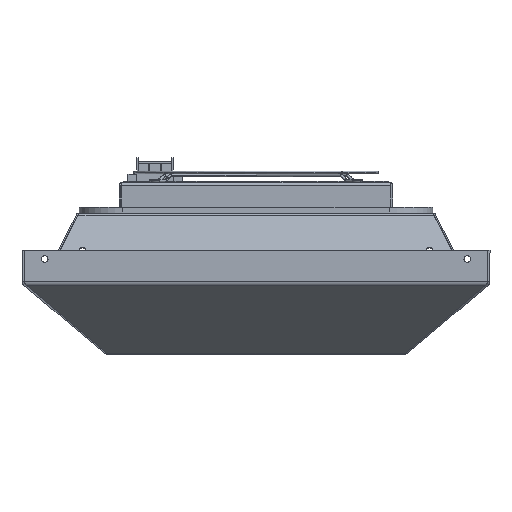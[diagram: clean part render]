
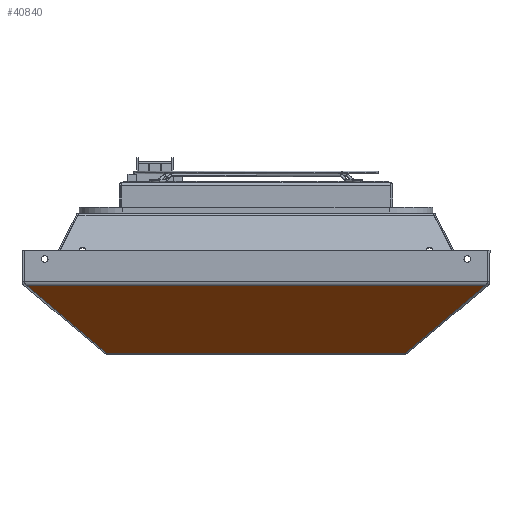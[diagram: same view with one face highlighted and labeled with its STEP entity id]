
A CAD part, front view. The second image highlights one B-rep face of the part: STEP entity #40840.
In plain terms, the highlighted planar face has unit normal (0, -0.643, -0.766).
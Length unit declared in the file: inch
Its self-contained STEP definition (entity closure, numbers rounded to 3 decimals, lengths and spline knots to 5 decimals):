
#13072 = EDGE_CURVE ( 'NONE', #23569, #23562, #17360, .T. ) ;
#13088 = EDGE_CURVE ( 'NONE', #23569, #23557, #17414, .T. ) ;
#13089 = EDGE_CURVE ( 'NONE', #23557, #23564, #17383, .T. ) ;
#13135 = EDGE_CURVE ( 'NONE', #23562, #23564, #19920, .T. ) ;
#17110 = ORIENTED_EDGE ( 'NONE', *, *, #13089, .T. ) ;
#17111 = ORIENTED_EDGE ( 'NONE', *, *, #13135, .F. ) ;
#17112 = ORIENTED_EDGE ( 'NONE', *, *, #13072, .F. ) ;
#17113 = ORIENTED_EDGE ( 'NONE', *, *, #13088, .T. ) ;
#17360 = LINE ( 'NONE', #32872, #17362 ) ;
#17362 = VECTOR ( 'NONE', #32873, 39.37008 ) ;
#17383 = LINE ( 'NONE', #32905, #17418 ) ;
#17414 = LINE ( 'NONE', #32907, #17416 ) ;
#17416 = VECTOR ( 'NONE', #32908, 39.37008 ) ;
#17418 = VECTOR ( 'NONE', #32910, 39.37008 ) ;
#17929 = AXIS2_PLACEMENT_3D ( 'NONE', #18945, #18955, #18956 ) ;
#18945 = CARTESIAN_POINT ( 'NONE',  ( 4.9485, -4.99478, 0.01684 ) ) ;
#18950 = PLANE ( 'NONE',  #17929 ) ;
#18955 = DIRECTION ( 'NONE',  ( 0., 0.643, 0.766 ) ) ;
#18956 = DIRECTION ( 'NONE',  ( 0., -0.766, 0.643 ) ) ;
#19918 = VECTOR ( 'NONE', #35433, 39.37008 ) ;
#19920 = LINE ( 'NONE', #35426, #19918 ) ;
#22953 = EDGE_LOOP ( 'NONE', ( #17110, #17111, #17112, #17113 ) ) ;
#23329 = FACE_OUTER_BOUND ( 'NONE', #22953, .T. ) ;
#23557 = VERTEX_POINT ( 'NONE', #36183 ) ;
#23562 = VERTEX_POINT ( 'NONE', #36186 ) ;
#23564 = VERTEX_POINT ( 'NONE', #36187 ) ;
#23569 = VERTEX_POINT ( 'NONE', #36190 ) ;
#32872 = CARTESIAN_POINT ( 'NONE',  ( 4.9485, -5.01709, 0.03556 ) ) ;
#32873 = DIRECTION ( 'NONE',  ( -1., 0., 0. ) ) ;
#32905 = CARTESIAN_POINT ( 'NONE',  ( 7.6801, -7.69793, 2.28505 ) ) ;
#32907 = CARTESIAN_POINT ( 'NONE',  ( -1.49009, 1.41128, -5.35848 ) ) ;
#32908 = DIRECTION ( 'NONE',  ( 0.608, -0.608, 0.51 ) ) ;
#32910 = DIRECTION ( 'NONE',  ( -1., 0., 0. ) ) ;
#35426 = CARTESIAN_POINT ( 'NONE',  ( 3.08478, 3.00597, -6.69658 ) ) ;
#35433 = DIRECTION ( 'NONE',  ( -0.608, -0.608, 0.51 ) ) ;
#36183 = CARTESIAN_POINT ( 'NONE',  ( 7.61912, -7.69793, 2.28505 ) ) ;
#36186 = CARTESIAN_POINT ( 'NONE',  ( -4.93828, -5.01709, 0.03556 ) ) ;
#36187 = CARTESIAN_POINT ( 'NONE',  ( -7.61912, -7.69793, 2.28505 ) ) ;
#36190 = CARTESIAN_POINT ( 'NONE',  ( 4.93828, -5.01709, 0.03556 ) ) ;
#40840 = ADVANCED_FACE ( 'NONE', ( #23329 ), #18950, .F. ) ;
